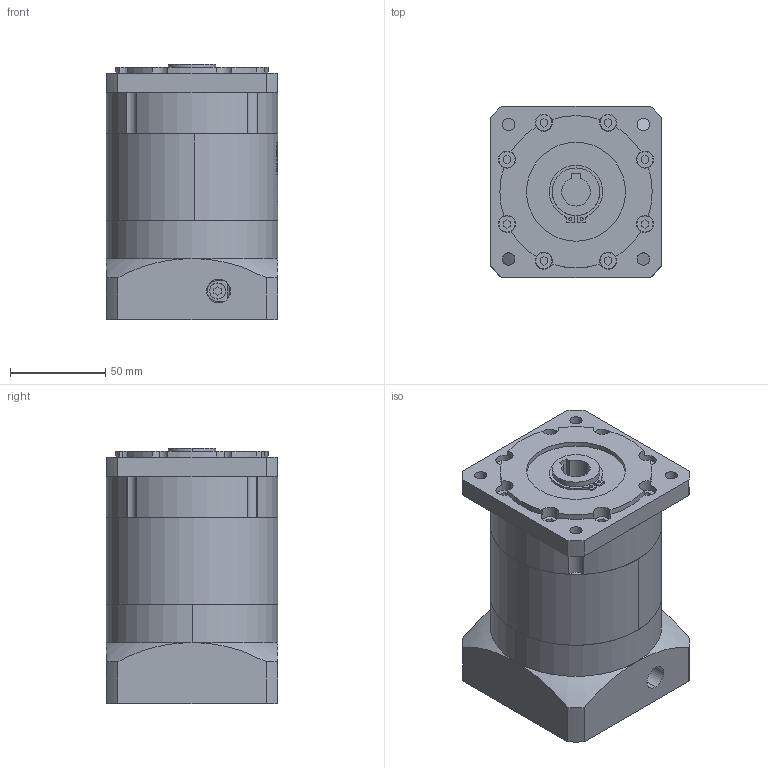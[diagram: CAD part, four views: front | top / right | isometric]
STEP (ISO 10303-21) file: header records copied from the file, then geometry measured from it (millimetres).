
FILE_DESCRIPTION (( 'STEP AP203' ), '1' );
FILE_NAME ('PBF090-L2-14-73-98.4.STEP', '2022-07-21T09:11:56', ( 'Windows User' ), ( 'P R C' ), 'SwSTEP 2.0', 'SolidWorks 2016', '' );
FILE_SCHEMA (( 'CONFIG_CONTROL_DESIGN' ));
Length unit declared in the file: millimetre
Products named in the file (7): 粣創-6007 35x62x14; PBF090 蟀諉啣-073-98.4-M5_D8-70 D9-90 D10-M5 A2-90 L4-32 L6-47(32+15) L7-6 R-59.5梓袧; PBF090 內齿圈-优化_二级内齿圈; PBF090-L2-14-73-98.4; PBF090 上蓋版-孔15输出-B5_标准; PBF090 狟屳唳-14_D6-90 D7-19 梓袧; 囀鞠褒蹟佪 M5℅20
Assembly tree (6 placements, depth 2):
  PBF090-L2-14-73-98.4
    PBF090 蟀諉啣-073-98.4-M5_D8-70 D9-90 D10-M5 A2-90 L4-32 L6-47(32+15) L7-6 R-59.5梓袧
    PBF090 內齿圈-优化_二级内齿圈
    PBF090 上蓋版-孔15输出-B5_标准
    PBF090 狟屳唳-14_D6-90 D7-19 梓袧
    囀鞠褒蹟佪 M5℅20
    粣創-6007 35x62x14
Bounding box: 90 x 90 x 134 mm (x, y, z)
Volume: 798845.2 mm3; surface area: 145343.3 mm2
Topology: 6 solids, 6 shells, 1105 faces, 3004 edges, 1990 vertices
Faces by surface type: plane 581, cylinder 206, bspline 168, sphere 88, torus 52, cone 10
Entity records: 45647 total; most frequent: CARTESIAN_POINT 18048, ORIENTED_EDGE 5992, DIRECTION 4969, EDGE_CURVE 2996, VERTEX_POINT 1990, AXIS2_PLACEMENT_3D 1735, LINE 1499, VECTOR 1499
